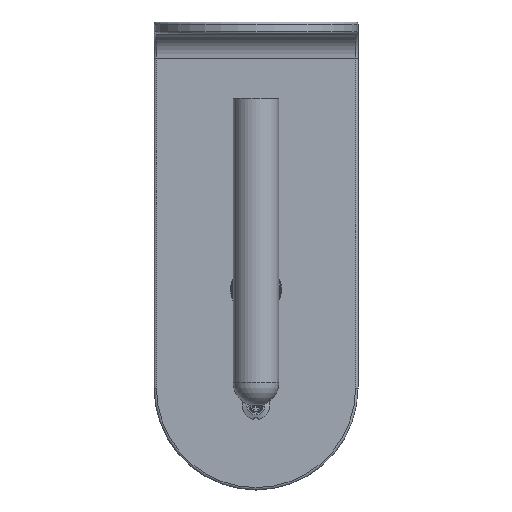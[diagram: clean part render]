
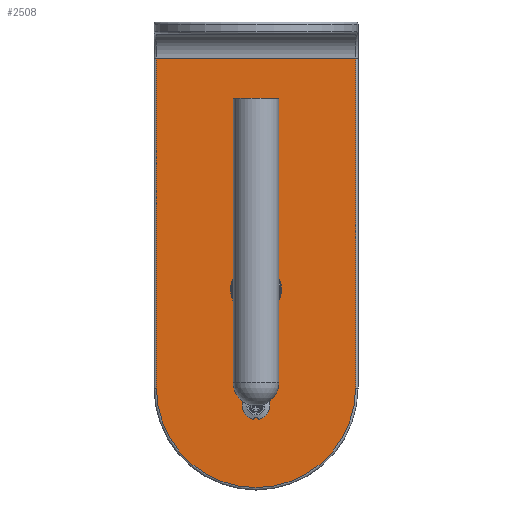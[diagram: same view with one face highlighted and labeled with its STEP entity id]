
A CAD part, front view. The second image highlights one B-rep face of the part: STEP entity #2508.
In plain terms, the highlighted planar face has unit normal (0, -1, 0).
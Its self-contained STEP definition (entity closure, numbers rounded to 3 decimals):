
#2508 = ADVANCED_FACE( '', ( #5376, #5377, #5378 ), #5379, .F. );
#5376 = FACE_BOUND( '', #13916, .T. );
#5377 = FACE_OUTER_BOUND( '', #13917, .T. );
#5378 = FACE_BOUND( '', #13918, .T. );
#5379 = PLANE( '', #13919 );
#13916 = EDGE_LOOP( '', ( #22422 ) );
#13917 = EDGE_LOOP( '', ( #22423, #22424, #22425, #22426 ) );
#13918 = EDGE_LOOP( '', ( #22427 ) );
#13919 = AXIS2_PLACEMENT_3D( '', #22428, #22429, #22430 );
#22422 = ORIENTED_EDGE( '', *, *, #27564, .T. );
#22423 = ORIENTED_EDGE( '', *, *, #28528, .T. );
#22424 = ORIENTED_EDGE( '', *, *, #28529, .T. );
#22425 = ORIENTED_EDGE( '', *, *, #27851, .T. );
#22426 = ORIENTED_EDGE( '', *, *, #28530, .T. );
#22427 = ORIENTED_EDGE( '', *, *, #28531, .T. );
#22428 = CARTESIAN_POINT( '', ( 244.727, -27.5, -15. ) );
#22429 = DIRECTION( '', ( 0., 1., 0. ) );
#22430 = DIRECTION( '', ( 0., 0., 1. ) );
#27564 = EDGE_CURVE( '', #31870, #31870, #31871, .T. );
#27851 = EDGE_CURVE( '', #32313, #32311, #32314, .F. );
#28528 = EDGE_CURVE( '', #33238, #32841, #33239, .T. );
#28529 = EDGE_CURVE( '', #32841, #32313, #33240, .T. );
#28530 = EDGE_CURVE( '', #32311, #33238, #33241, .F. );
#28531 = EDGE_CURVE( '', #33242, #33242, #33243, .T. );
#31870 = VERTEX_POINT( '', #39503 );
#31871 = CIRCLE( '', #39504, 10.618 );
#32311 = VERTEX_POINT( '', #40303 );
#32313 = VERTEX_POINT( '', #40305 );
#32314 = CIRCLE( '', #40306, 41.5 );
#32841 = VERTEX_POINT( '', #41591 );
#33238 = VERTEX_POINT( '', #42653 );
#33239 = LINE( '', #42654, #42655 );
#33240 = LINE( '', #42656, #42657 );
#33241 = LINE( '', #42658, #42659 );
#33242 = VERTEX_POINT( '', #42660 );
#33243 = CIRCLE( '', #42661, 4.625 );
#39503 = CARTESIAN_POINT( '', ( 0., -27.5, -100.882 ) );
#39504 = AXIS2_PLACEMENT_3D( '', #46058, #46059, #46060 );
#40303 = CARTESIAN_POINT( '', ( 41.5, -27.5, -152.5 ) );
#40305 = CARTESIAN_POINT( '', ( -41.5, -27.5, -152.5 ) );
#40306 = AXIS2_PLACEMENT_3D( '', #46394, #46395, #46396 );
#41591 = CARTESIAN_POINT( '', ( -41.5, -27.5, -15. ) );
#42653 = CARTESIAN_POINT( '', ( 41.5, -27.5, -15. ) );
#42654 = CARTESIAN_POINT( '', ( 244.727, -27.5, -15. ) );
#42655 = VECTOR( '', #47058, 1000. );
#42656 = CARTESIAN_POINT( '', ( -41.5, -27.5, -152.5 ) );
#42657 = VECTOR( '', #47059, 1000. );
#42658 = CARTESIAN_POINT( '', ( 41.5, -27.5, -15. ) );
#42659 = VECTOR( '', #47060, 1000. );
#42660 = CARTESIAN_POINT( '', ( 0., -27.5, -155.375 ) );
#42661 = AXIS2_PLACEMENT_3D( '', #47061, #47062, #47063 );
#46058 = CARTESIAN_POINT( '', ( 0., -27.5, -111.5 ) );
#46059 = DIRECTION( '', ( 0., 1., 0. ) );
#46060 = DIRECTION( '', ( 0., 0., 1. ) );
#46394 = CARTESIAN_POINT( '', ( 0., -27.5, -152.5 ) );
#46395 = DIRECTION( '', ( 0., 1., 0. ) );
#46396 = DIRECTION( '', ( 0., 0., 1. ) );
#47058 = DIRECTION( '', ( -1., 0., 0. ) );
#47059 = DIRECTION( '', ( 0., 0., -1. ) );
#47060 = DIRECTION( '', ( 0., 0., -1. ) );
#47061 = CARTESIAN_POINT( '', ( 0., -27.5, -160. ) );
#47062 = DIRECTION( '', ( 0., 1., 0. ) );
#47063 = DIRECTION( '', ( 0., 0., 1. ) );
